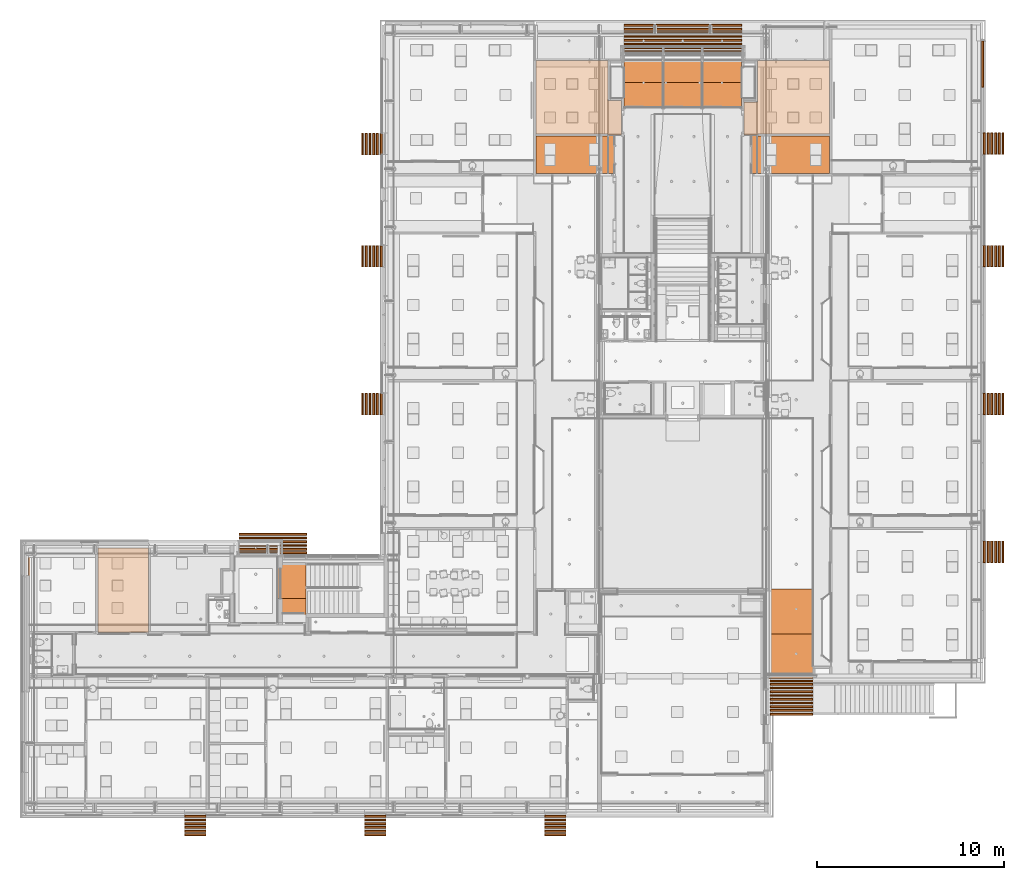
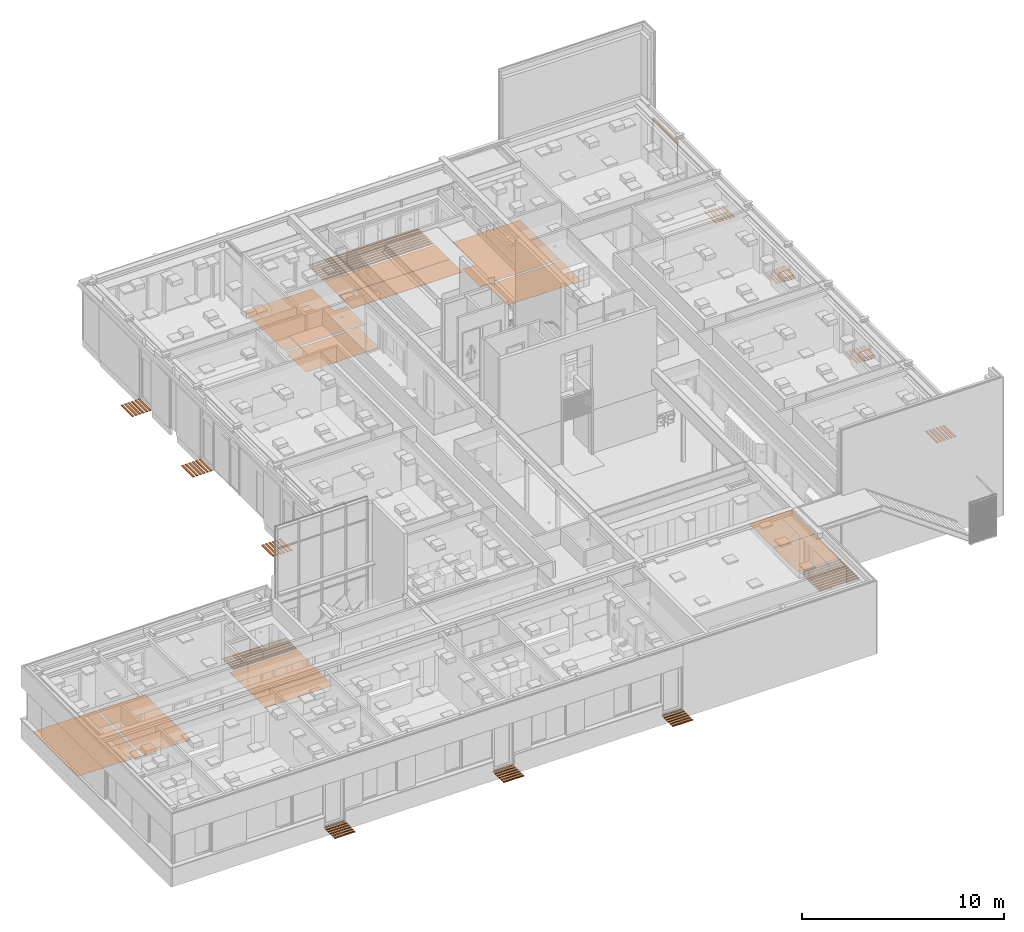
# One storey, part 337 of 347: 97 proxies.
"""IFC2X3 building model written with IfcOpenShell, lengths in millimetres."""

from ifc_helpers import new_model, entity, si_unit, converted_unit, derived_unit, money_unit, direction, frame, origin_with_axes, place, context, subcontext, project, spatial, open_shell, faceted_brep, surface_model, source, transform, mapped, material, type_object, type_shapes, element, save


model = new_model("IFC2X3")

# Units and contexts
model_context = context("Model", 3, precision=0.01, world=origin_with_axes(), true_north=direction((0.0, 1.0)))
plan_context = context("Plan", 3, precision=0.01, world=origin_with_axes(), true_north=direction((0.0, 1.0)))
body_context = subcontext(model_context, "Body", "Model", "MODEL_VIEW")
ifc_project = project(units=[si_unit("LENGTHUNIT", "METRE", prefix="MILLI"), si_unit("AREAUNIT", "SQUARE_METRE"), si_unit("VOLUMEUNIT", "CUBIC_METRE"), converted_unit("PLANEANGLEUNIT", "DEGREE", entity("IfcPlaneAngleMeasure", 0.0174532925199), si_unit("PLANEANGLEUNIT", "RADIAN"), dimensions=[0, 0, 0, 0, 0, 0, 0]), money_unit("EUR"), converted_unit("TIMEUNIT", "Year", entity("IfcTimeMeasure", 31556926.0), si_unit("TIMEUNIT", "SECOND"), dimensions=[0, 0, 1, 0, 0, 0, 0]), si_unit("MASSUNIT", "GRAM", prefix="KILO"), si_unit("THERMODYNAMICTEMPERATUREUNIT", "DEGREE_CELSIUS"), si_unit("LUMINOUSINTENSITYUNIT", "LUMEN"), si_unit("ENERGYUNIT", "JOULE", prefix="MEGA"), derived_unit("THERMALCONDUCTANCEUNIT", [(si_unit("POWERUNIT", "WATT"), 1), (si_unit("LENGTHUNIT", "METRE"), -1), (si_unit("THERMODYNAMICTEMPERATUREUNIT", "KELVIN"), -1)]), derived_unit("SPECIFICHEATCAPACITYUNIT", [(si_unit("ENERGYUNIT", "JOULE"), 1), (si_unit("MASSUNIT", "GRAM", prefix="KILO"), -1), (si_unit("THERMODYNAMICTEMPERATUREUNIT", "KELVIN"), -1)]), derived_unit("MASSDENSITYUNIT", [(si_unit("MASSUNIT", "GRAM", prefix="KILO"), 1), (si_unit("VOLUMEUNIT", "CUBIC_METRE"), -1)])], contexts=[model_context, plan_context])

# Site, building, storey
site_placement = place(None, origin_with_axes())
site = spatial("IfcSite", under=ifc_project, at=site_placement, Name="Site", CompositionType="ELEMENT")
building_placement = place(site_placement, origin_with_axes())
building = spatial("IfcBuilding", under=site, at=building_placement, Name="Naam gebouw", CompositionType="ELEMENT")
storey_placement = place(building_placement, origin_with_axes())
storey = spatial("IfcBuildingStorey", under=building, at=storey_placement, Name="begane grond", CompositionType="ELEMENT", Elevation=0.0)

# Proxies
ifc_material_1 = material(Name="48 Emco Scratch2")
building_element_proxy_type_1 = type_object("IfcBuildingElementProxyType", Name="48 Emco Scratch2 30", PredefinedType="NOTDEFINED")
for number, where, z_axis, x_axis, name in (
    (1, (19905.0, 19694.9999717, -10.0), (0.0, 0.0, 1.0), (1.0, 0.0, 0.0), "_43 schoonloop zone 1"),
    (2, (19905.0, 19494.9999717, -10.0), (0.0, 0.0, 1.0), (1.0, 0.0, 0.0), "_43 schoonloop zone 1"),
    (3, (19905.0, 19294.9999717, -10.0), (0.0, 0.0, 1.0), (1.0, 0.0, 0.0), "_43 schoonloop zone 1"),
    (4, (19905.0, 19094.9999717, -10.0), (0.0, 0.0, 1.0), (1.0, 0.0, 0.0), "_43 schoonloop zone 1"),
    (5, (19905.0, 18894.9999717, -10.0), (0.0, 0.0, 1.0), (1.0, 0.0, 0.0), "_43 schoonloop zone 1"),
    (6, (19905.0, 18694.9999717, -10.0), (0.0, 0.0, 1.0), (1.0, 0.0, 0.0), "_43 schoonloop zone 1"),
):
    element("IfcBuildingElementProxy", number, at=place(storey_placement, frame(where, z_axis=z_axis, x_axis=x_axis)), inside=storey, type_object=building_element_proxy_type_1, material=ifc_material_1, Name=name, context=body_context, shape_type="Brep", body=[
        faceted_brep([(0.0, 0.0, 0.0), (0.0, 0.0, -30.0), (0.0, 100.0, -30.0), (0.0, 100.0, 0.0), (-3619.99993473, 0.0, 0.0), (-3619.99993473, 0.0, -30.0), (-3619.99993473, 100.0, -30.0), (-3619.99993473, 100.0, 0.0)], [[[0, 1, 2, 3]], [[4, 5, 1, 0]], [[2, 1, 5, 6]], [[3, 2, 6, 7]], [[4, 0, 3, 7]], [[7, 6, 5, 4]]]),
    ])
for number, where, z_axis, x_axis, name in (
    (7, (47055.0, 10050.0, -10.0), (0.0, 0.0, 1.0), (1.0, 0.0, 0.0), "_43 schoonloop zone 1"),
    (8, (47055.0, 10450.0, -10.0), (0.0, 0.0, 1.0), (1.0, 0.0, 0.0), "_43 schoonloop zone 1"),
    (9, (47055.0, 10250.0, -10.0), (0.0, 0.0, 1.0), (1.0, 0.0, 0.0), "_43 schoonloop zone 1"),
):
    element("IfcBuildingElementProxy", number, at=place(storey_placement, frame(where, z_axis=z_axis, x_axis=x_axis)), inside=storey, type_object=building_element_proxy_type_1, material=ifc_material_1, Name=name, context=body_context, shape_type="Brep", body=[
        faceted_brep([(0.0, 0.0, 0.0), (0.0, 0.0, -30.0), (0.0, 100.0, -30.0), (0.0, 100.0, 0.0), (-2277.99924659, 0.0, 0.0), (-2277.99924659, 0.0, -30.0), (-2277.99924659, 100.0, -30.0), (-2277.99924659, 100.0, 0.0)], [[[0, 1, 2, 3]], [[4, 5, 1, 0]], [[2, 1, 5, 6]], [[3, 2, 6, 7]], [[4, 0, 3, 7]], [[7, 6, 5, 4]]]),
    ])
proxy_1_placement = place(storey_placement, frame((47055.0, 11850.0, -10.0), z_axis=(0.0, 0.0, 1.0), x_axis=(1.0, 0.0, 0.0)))
element("IfcBuildingElementProxy", 10, at=proxy_1_placement, inside=storey, type_object=building_element_proxy_type_1, material=ifc_material_1, Name="_43 schoonloop zone 1", context=body_context, shape_type="Brep", body=[
    faceted_brep([(0.0, 0.0, 0.0), (0.0, 0.0, -30.0), (0.0, 78.0000336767, -30.0), (0.0, 78.0000336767, 0.0), (-2277.99924659, 0.0, 0.0), (-2277.99924659, 0.0, -30.0), (-2277.99924659, 78.0000336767, -30.0), (-2277.99924659, 78.0000336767, 0.0)], [[[0, 1, 2, 3]], [[4, 5, 1, 0]], [[2, 1, 5, 6]], [[3, 2, 6, 7]], [[4, 0, 3, 7]], [[7, 6, 5, 4]]]),
])
for number, where, z_axis, x_axis, name in (
    (11, (47055.0, 10850.0, -10.0), (0.0, 0.0, 1.0), (1.0, 0.0, 0.0), "_43 schoonloop zone 1"),
    (12, (47055.0, 10650.0, -10.0), (0.0, 0.0, 1.0), (1.0, 0.0, 0.0), "_43 schoonloop zone 1"),
    (13, (47055.0, 11250.0, -10.0), (0.0, 0.0, 1.0), (1.0, 0.0, 0.0), "_43 schoonloop zone 1"),
    (14, (47055.0, 11050.0, -10.0), (0.0, 0.0, 1.0), (1.0, 0.0, 0.0), "_43 schoonloop zone 1"),
    (15, (47055.0, 11650.0, -10.0), (0.0, 0.0, 1.0), (1.0, 0.0, 0.0), "_43 schoonloop zone 1"),
    (16, (47055.0, 11450.0, -10.0), (0.0, 0.0, 1.0), (1.0, 0.0, 0.0), "_43 schoonloop zone 1"),
):
    element("IfcBuildingElementProxy", number, at=place(storey_placement, frame(where, z_axis=z_axis, x_axis=x_axis)), inside=storey, type_object=building_element_proxy_type_1, material=ifc_material_1, Name=name, context=body_context, shape_type="Brep", body=[
        faceted_brep([(0.0, 0.0, 0.0), (0.0, 0.0, -30.0), (0.0, 100.0, -30.0), (0.0, 100.0, 0.0), (-2277.99924659, 0.0, 0.0), (-2277.99924659, 0.0, -30.0), (-2277.99924659, 100.0, -30.0), (-2277.99924659, 100.0, 0.0)], [[[0, 1, 2, 3]], [[4, 5, 1, 0]], [[2, 1, 5, 6]], [[3, 2, 6, 7]], [[4, 0, 3, 7]], [[7, 6, 5, 4]]]),
    ])
for number, where, z_axis, x_axis, name in (
    (17, (43225.0, 46980.0, -10.0), (0.0, 0.0, 1.0), (1.0, 0.0, 0.0), "_43 schoonloop zone 1"),
    (18, (43225.0, 46780.0, -10.0), (0.0, 0.0, 1.0), (1.0, 0.0, 0.0), "_43 schoonloop zone 1"),
    (19, (43225.0, 46580.0, -10.0), (0.0, 0.0, 1.0), (1.0, 0.0, 0.0), "_43 schoonloop zone 1"),
    (20, (43225.0, 46380.0, -10.0), (0.0, 0.0, 1.0), (1.0, 0.0, 0.0), "_43 schoonloop zone 1"),
    (21, (43225.0, 46180.0, -10.0), (0.0, 0.0, 1.0), (1.0, 0.0, 0.0), "_43 schoonloop zone 1"),
    (22, (43225.0, 45980.0, -10.0), (0.0, 0.0, 1.0), (1.0, 0.0, 0.0), "_43 schoonloop zone 1"),
    (23, (43225.0, 45780.0, -10.0), (0.0, 0.0, 1.0), (1.0, 0.0, 0.0), "_43 schoonloop zone 1"),
    (24, (43225.0, 45580.0, -10.0), (0.0, 0.0, 1.0), (1.0, 0.0, 0.0), "_43 schoonloop zone 1"),
):
    element("IfcBuildingElementProxy", number, at=place(storey_placement, frame(where, z_axis=z_axis, x_axis=x_axis)), inside=storey, type_object=building_element_proxy_type_1, material=ifc_material_1, Name=name, context=body_context, shape_type="Brep", body=[
        faceted_brep([(0.0, 0.0, 0.0), (0.0, 0.0, -30.0), (0.0, 100.0, -30.0), (0.0, 100.0, 0.0), (-6300.0, 0.0, 0.0), (-6300.0, 0.0, -30.0), (-6300.0, 100.0, -30.0), (-6300.0, 100.0, 0.0)], [[[0, 1, 2, 3]], [[4, 5, 1, 0]], [[2, 1, 5, 6]], [[3, 2, 6, 7]], [[4, 0, 3, 7]], [[7, 6, 5, 4]]]),
    ])
for number, where, z_axis, x_axis, name in (
    (25, (56196.9999969, 40110.0000196, -10.0), (0.0, 0.0, 1.0), (1.0, 0.0, 0.0), "_43 schoonloop zone 1"),
    (26, (56396.9999969, 40110.0000196, -10.0), (0.0, 0.0, 1.0), (1.0, 0.0, 0.0), "_43 schoonloop zone 1"),
    (27, (56596.9999969, 40110.0000196, -10.0), (0.0, 0.0, 1.0), (1.0, 0.0, 0.0), "_43 schoonloop zone 1"),
    (28, (56796.9999969, 40110.0000196, -10.0), (0.0, 0.0, 1.0), (1.0, 0.0, 0.0), "_43 schoonloop zone 1"),
    (29, (56996.9999969, 40110.0000196, -10.0), (0.0, 0.0, 1.0), (1.0, 0.0, 0.0), "_43 schoonloop zone 1"),
    (30, (57196.9999969, 40110.0000196, -10.0), (0.0, 0.0, 1.0), (1.0, 0.0, 0.0), "_43 schoonloop zone 1"),
    (31, (56196.9999969, 34074.4999991, -10.0), (0.0, 0.0, 1.0), (1.0, 0.0, 0.0), "_43 schoonloop zone 1"),
    (32, (56396.9999969, 34074.4999991, -10.0), (0.0, 0.0, 1.0), (1.0, 0.0, 0.0), "_43 schoonloop zone 1"),
    (33, (56596.9999969, 34074.4999991, -10.0), (0.0, 0.0, 1.0), (1.0, 0.0, 0.0), "_43 schoonloop zone 1"),
    (34, (56796.9999969, 34074.4999991, -10.0), (0.0, 0.0, 1.0), (1.0, 0.0, 0.0), "_43 schoonloop zone 1"),
    (35, (56996.9999969, 34074.4999991, -10.0), (0.0, 0.0, 1.0), (1.0, 0.0, 0.0), "_43 schoonloop zone 1"),
    (36, (57196.9999969, 34074.4999991, -10.0), (0.0, 0.0, 1.0), (1.0, 0.0, 0.0), "_43 schoonloop zone 1"),
    (37, (56196.9999969, 26149.5, -10.0), (0.0, 0.0, 1.0), (1.0, 0.0, 0.0), "_43 schoonloop zone 1"),
    (38, (56396.9999969, 26149.5, -10.0), (0.0, 0.0, 1.0), (1.0, 0.0, 0.0), "_43 schoonloop zone 1"),
    (39, (56596.9999969, 26149.5, -10.0), (0.0, 0.0, 1.0), (1.0, 0.0, 0.0), "_43 schoonloop zone 1"),
    (40, (56796.9999969, 26149.5, -10.0), (0.0, 0.0, 1.0), (1.0, 0.0, 0.0), "_43 schoonloop zone 1"),
    (41, (56996.9999969, 26149.5, -10.0), (0.0, 0.0, 1.0), (1.0, 0.0, 0.0), "_43 schoonloop zone 1"),
    (42, (57196.9999969, 26149.5, -10.0), (0.0, 0.0, 1.0), (1.0, 0.0, 0.0), "_43 schoonloop zone 1"),
    (43, (56196.9999969, 18224.5, -10.0), (0.0, 0.0, 1.0), (1.0, 0.0, 0.0), "_43 schoonloop zone 1"),
    (44, (56396.9999969, 18224.5, -10.0), (0.0, 0.0, 1.0), (1.0, 0.0, 0.0), "_43 schoonloop zone 1"),
    (45, (56596.9999969, 18224.5, -10.0), (0.0, 0.0, 1.0), (1.0, 0.0, 0.0), "_43 schoonloop zone 1"),
    (46, (56796.9999969, 18224.5, -10.0), (0.0, 0.0, 1.0), (1.0, 0.0, 0.0), "_43 schoonloop zone 1"),
    (47, (56996.9999969, 18224.5, -10.0), (0.0, 0.0, 1.0), (1.0, 0.0, 0.0), "_43 schoonloop zone 1"),
    (48, (57196.9999969, 18224.5, -10.0), (0.0, 0.0, 1.0), (1.0, 0.0, 0.0), "_43 schoonloop zone 1"),
):
    element("IfcBuildingElementProxy", number, at=place(storey_placement, frame(where, z_axis=z_axis, x_axis=x_axis)), inside=storey, type_object=building_element_proxy_type_1, material=ifc_material_1, Name=name, context=body_context, shape_type="Brep", body=[
        faceted_brep([(0.0, 0.0, 0.0), (0.0, 0.0, -30.0), (100.0, 0.0, -30.0), (100.0, 0.0, 0.0), (0.0, 1150.0, 0.0), (0.0, 1150.0, -30.0), (100.0, 1150.0, -30.0), (100.0, 1150.0, 0.0)], [[[0, 1, 2, 3]], [[4, 5, 1, 0]], [[2, 1, 5, 6]], [[3, 2, 6, 7]], [[4, 0, 3, 7]], [[7, 6, 5, 4]]]),
    ])
for number, where, z_axis, x_axis, name in (
    (49, (32662.0, 4678.00004885, -10.0), (0.0, 0.0, 1.0), (1.0, 0.0, 0.0), "_43 schoonloop zone 1"),
    (50, (32662.0, 4478.00004885, -10.0), (0.0, 0.0, 1.0), (1.0, 0.0, 0.0), "_43 schoonloop zone 1"),
    (51, (32662.0, 4278.00004885, -10.0), (0.0, 0.0, 1.0), (1.0, 0.0, 0.0), "_43 schoonloop zone 1"),
    (52, (32662.0, 4078.00004885, -10.0), (0.0, 0.0, 1.0), (1.0, 0.0, 0.0), "_43 schoonloop zone 1"),
    (53, (32662.0, 3878.00004885, -10.0), (0.0, 0.0, 1.0), (1.0, 0.0, 0.0), "_43 schoonloop zone 1"),
    (54, (32662.0, 3678.00004885, -10.0), (0.0, 0.0, 1.0), (1.0, 0.0, 0.0), "_43 schoonloop zone 1"),
    (55, (23012.0, 4678.00004885, -10.0), (0.0, 0.0, 1.0), (1.0, 0.0, 0.0), "_43 schoonloop zone 1"),
    (56, (23012.0, 4478.00004885, -10.0), (0.0, 0.0, 1.0), (1.0, 0.0, 0.0), "_43 schoonloop zone 1"),
    (57, (23012.0, 4278.00004885, -10.0), (0.0, 0.0, 1.0), (1.0, 0.0, 0.0), "_43 schoonloop zone 1"),
    (58, (23012.0, 4078.00004885, -10.0), (0.0, 0.0, 1.0), (1.0, 0.0, 0.0), "_43 schoonloop zone 1"),
    (59, (23012.0, 3878.00004885, -10.0), (0.0, 0.0, 1.0), (1.0, 0.0, 0.0), "_43 schoonloop zone 1"),
    (60, (23012.0, 3678.00004885, -10.0), (0.0, 0.0, 1.0), (1.0, 0.0, 0.0), "_43 schoonloop zone 1"),
    (61, (13362.0, 4678.00004885, -10.0), (0.0, 0.0, 1.0), (1.0, 0.0, 0.0), "_43 schoonloop zone 1"),
    (62, (13362.0, 4478.00004885, -10.0), (0.0, 0.0, 1.0), (1.0, 0.0, 0.0), "_43 schoonloop zone 1"),
    (63, (13362.0, 4278.00004885, -10.0), (0.0, 0.0, 1.0), (1.0, 0.0, 0.0), "_43 schoonloop zone 1"),
    (64, (13362.0, 4078.00004885, -10.0), (0.0, 0.0, 1.0), (1.0, 0.0, 0.0), "_43 schoonloop zone 1"),
    (65, (13362.0, 3878.00004885, -10.0), (0.0, 0.0, 1.0), (1.0, 0.0, 0.0), "_43 schoonloop zone 1"),
    (66, (13362.0, 3678.00004885, -10.0), (0.0, 0.0, 1.0), (1.0, 0.0, 0.0), "_43 schoonloop zone 1"),
):
    element("IfcBuildingElementProxy", number, at=place(storey_placement, frame(where, z_axis=z_axis, x_axis=x_axis)), inside=storey, type_object=building_element_proxy_type_1, material=ifc_material_1, Name=name, context=body_context, shape_type="Brep", body=[
        faceted_brep([(0.0, 0.0, 0.0), (0.0, 0.0, -30.0), (0.0, -100.0, -30.0), (0.0, -100.0, 0.0), (1150.0, 0.0, 0.0), (1150.0, 0.0, -30.0), (1150.0, -100.0, -30.0), (1150.0, -100.0, 0.0)], [[[0, 1, 2, 3]], [[4, 5, 1, 0]], [[2, 1, 5, 6]], [[3, 2, 6, 7]], [[4, 0, 3, 7]], [[7, 6, 5, 4]]]),
    ])
for number, where, z_axis, x_axis, name in (
    (67, (23953.0000283, 27299.5, -10.0), (0.0, 0.0, 1.0), (1.0, 0.0, 0.0), "_43 schoonloop zone 1"),
    (68, (23753.0000283, 27299.5, -10.0), (0.0, 0.0, 1.0), (1.0, 0.0, 0.0), "_43 schoonloop zone 1"),
    (69, (23553.0000283, 27299.5, -10.0), (0.0, 0.0, 1.0), (1.0, 0.0, 0.0), "_43 schoonloop zone 1"),
    (70, (23353.0000283, 27299.5, -10.0), (0.0, 0.0, 1.0), (1.0, 0.0, 0.0), "_43 schoonloop zone 1"),
    (71, (23153.0000283, 27299.5, -10.0), (0.0, 0.0, 1.0), (1.0, 0.0, 0.0), "_43 schoonloop zone 1"),
    (72, (22953.0000283, 27299.5, -10.0), (0.0, 0.0, 1.0), (1.0, 0.0, 0.0), "_43 schoonloop zone 1"),
    (73, (23953.0000283, 35224.5, -10.0), (0.0, 0.0, 1.0), (1.0, 0.0, 0.0), "_43 schoonloop zone 1"),
    (74, (23753.0000283, 35224.5, -10.0), (0.0, 0.0, 1.0), (1.0, 0.0, 0.0), "_43 schoonloop zone 1"),
    (75, (23553.0000283, 35224.5, -10.0), (0.0, 0.0, 1.0), (1.0, 0.0, 0.0), "_43 schoonloop zone 1"),
    (76, (23353.0000283, 35224.5, -10.0), (0.0, 0.0, 1.0), (1.0, 0.0, 0.0), "_43 schoonloop zone 1"),
    (77, (23153.0000283, 35224.5, -10.0), (0.0, 0.0, 1.0), (1.0, 0.0, 0.0), "_43 schoonloop zone 1"),
    (78, (22953.0000283, 35224.5, -10.0), (0.0, 0.0, 1.0), (1.0, 0.0, 0.0), "_43 schoonloop zone 1"),
    (79, (23953.0000283, 41234.0000187, -10.0), (0.0, 0.0, 1.0), (1.0, 0.0, 0.0), "_43 schoonloop zone 1"),
    (80, (23753.0000283, 41234.0000187, -10.0), (0.0, 0.0, 1.0), (1.0, 0.0, 0.0), "_43 schoonloop zone 1"),
    (81, (23553.0000283, 41234.0000187, -10.0), (0.0, 0.0, 1.0), (1.0, 0.0, 0.0), "_43 schoonloop zone 1"),
    (82, (23353.0000283, 41234.0000187, -10.0), (0.0, 0.0, 1.0), (1.0, 0.0, 0.0), "_43 schoonloop zone 1"),
    (83, (23153.0000283, 41234.0000187, -10.0), (0.0, 0.0, 1.0), (1.0, 0.0, 0.0), "_43 schoonloop zone 1"),
    (84, (22953.0000283, 41234.0000187, -10.0), (0.0, 0.0, 1.0), (1.0, 0.0, 0.0), "_43 schoonloop zone 1"),
):
    element("IfcBuildingElementProxy", number, at=place(storey_placement, frame(where, z_axis=z_axis, x_axis=x_axis)), inside=storey, type_object=building_element_proxy_type_1, material=ifc_material_1, Name=name, context=body_context, shape_type="Brep", body=[
        faceted_brep([(0.0, 0.0, 0.0), (0.0, 0.0, -30.0), (-100.0, 0.0, -30.0), (-100.0, 0.0, 0.0), (0.0, -1150.0, 0.0), (0.0, -1150.0, -30.0), (-100.0, -1150.0, -30.0), (-100.0, -1150.0, 0.0)], [[[0, 1, 2, 3]], [[4, 5, 1, 0]], [[2, 1, 5, 6]], [[3, 2, 6, 7]], [[4, 0, 3, 7]], [[7, 6, 5, 4]]]),
    ])
building_element_proxy_type_2 = type_object("IfcBuildingElementProxyType", Name="48 Emco Scratch2 15", PredefinedType="NOTDEFINED")
proxy_2_placement = place(storey_placement, frame((44655.0, 12000.0000337, -10.0), z_axis=(0.0, 0.0, 1.0), x_axis=(1.0, 0.0, 0.0)))
element("IfcBuildingElementProxy", 85, at=proxy_2_placement, inside=storey, type_object=building_element_proxy_type_2, material=ifc_material_1, Name="_43 schoonloop zone 2", context=body_context, shape_type="Brep", body=[
    faceted_brep([(0.0, 0.0, 15.0), (0.0, 0.0, 0.0), (2400.0, 0.0, 0.0), (2400.0, 0.0, 15.0), (0.0, 2410.00000659, 15.0), (0.0, 2410.00000659, 0.0), (2400.0, 2410.00000659, 0.0), (2400.0, 2410.00000659, 15.0)], [[[0, 1, 2, 3]], [[4, 5, 1, 0]], [[2, 1, 5, 6]], [[3, 2, 6, 7]], [[4, 0, 3, 7]], [[7, 6, 5, 4]]]),
])
proxy_3_placement = place(storey_placement, frame((16005.0000216, 16300.0, -10.0), z_axis=(0.0, 0.0, 1.0), x_axis=(1.0, 0.0, 0.0)))
element("IfcBuildingElementProxy", 86, at=proxy_3_placement, inside=storey, type_object=building_element_proxy_type_2, material=ifc_material_1, Name="_43 schoonloop zone 2", context=body_context, shape_type="Brep", body=[
    faceted_brep([(0.0, 0.0, 15.0), (0.0, 0.0, 0.0), (3859.99997835, 0.0, 0.0), (3859.99997835, 0.0, 15.0), (0.0, 2233.00000094, 15.0), (0.0, 2233.00000094, 0.0), (3859.99997835, 2233.00000094, 0.0), (3859.99997835, 2233.00000094, 15.0)], [[[0, 1, 2, 3]], [[4, 5, 1, 0]], [[2, 1, 5, 6]], [[3, 2, 6, 7]], [[4, 0, 3, 7]], [[7, 6, 5, 4]]]),
])
proxy_4_placement = place(storey_placement, frame((36925.0, 43962.5, -10.0), z_axis=(0.0, 0.0, 1.0), x_axis=(1.0, 0.0, 0.0)))
element("IfcBuildingElementProxy", 87, at=proxy_4_placement, inside=storey, type_object=building_element_proxy_type_2, material=ifc_material_1, Name="_43 schoonloop zone 2", context=body_context, shape_type="Brep", body=[
    faceted_brep([(0.0, 0.0, 15.0), (0.0, 0.0, 0.0), (6300.0, 0.0, 0.0), (6300.0, 0.0, 15.0), (0.0, 1445.5, 15.0), (0.0, 1445.5, 0.0), (6300.0, 1445.5, 0.0), (6300.0, 1445.5, 15.0)], [[[0, 1, 2, 3]], [[4, 5, 1, 0]], [[2, 1, 5, 6]], [[3, 2, 6, 7]], [[4, 0, 3, 7]], [[7, 6, 5, 4]]]),
])
ifc_material_2 = material(Name="48 Emco Maximus")
building_element_proxy_type_3 = type_object("IfcBuildingElementProxyType", Name="48 Emco Maximus 15", PredefinedType="NOTDEFINED")
proxy_5_placement = place(storey_placement, frame((44655.0012132, 14410.0000403, -10.0), z_axis=(0.0, 0.0, 1.0), x_axis=(1.0, 0.0, 0.0)))
element("IfcBuildingElementProxy", 88, at=proxy_5_placement, inside=storey, type_object=building_element_proxy_type_3, material=ifc_material_2, Name="_schoonloop zone 3", context=body_context, shape_type="Brep", body=[
    faceted_brep([(0.0, 0.0, 15.0), (0.0, 0.0, 0.0), (2399.99878679, 0.0, 0.0), (2399.99878679, 0.0, 15.0), (0.0, 2399.99995973, 15.0), (0.0, 2399.99995973, 0.0), (2399.99878679, 2399.99995973, 0.0), (2399.99878679, 2399.99995973, 15.0)], [[[0, 1, 2, 3]], [[4, 5, 1, 0]], [[2, 1, 5, 6]], [[3, 2, 6, 7]], [[4, 0, 3, 7]], [[7, 6, 5, 4]]]),
])
proxy_6_placement = place(storey_placement, frame((16005.0000216, 15015.0, -10.0), z_axis=(0.0, 0.0, 1.0), x_axis=(1.0, 0.0, 0.0)))
element("IfcBuildingElementProxy", 89, at=proxy_6_placement, inside=storey, type_object=building_element_proxy_type_3, material=ifc_material_2, Name="_schoonloop zone 3", context=body_context, shape_type="Brep", body=[
    faceted_brep([(0.0, 0.0, 15.0), (0.0, 0.0, 0.0), (3859.99997835, 0.0, 0.0), (3859.99997835, 0.0, 15.0), (0.0, 1285.0, 15.0), (0.0, 1285.0, 0.0), (3859.99997835, 1285.0, 0.0), (3859.99997835, 1285.0, 15.0)], [[[0, 1, 2, 3]], [[4, 5, 1, 0]], [[2, 1, 5, 6]], [[3, 2, 6, 7]], [[4, 0, 3, 7]], [[7, 6, 5, 4]]]),
])
proxy_7_placement = place(storey_placement, frame((36925.0, 42687.5, -10.0), z_axis=(0.0, 0.0, 1.0), x_axis=(1.0, 0.0, 0.0)))
element("IfcBuildingElementProxy", 90, at=proxy_7_placement, inside=storey, type_object=building_element_proxy_type_3, material=ifc_material_2, Name="_43 schoonloop zone 3", context=body_context, shape_type="Brep", body=[
    faceted_brep([(0.0, 0.0, 15.0), (0.0, 0.0, 0.0), (6300.0, 0.0, 0.0), (6300.0, 0.0, 15.0), (0.0, 1275.0, 15.0), (0.0, 1275.0, 0.0), (6300.0, 1275.0, 0.0), (6300.0, 1275.0, 15.0)], [[[0, 1, 2, 3]], [[4, 5, 1, 0]], [[2, 1, 5, 6]], [[3, 2, 6, 7]], [[4, 0, 3, 7]], [[7, 6, 5, 4]]]),
])
ifc_material_3 = material(Name="48 Desso airmaster 1958")
building_element_proxy_type_4 = type_object("IfcBuildingElementProxyType", Name="48 Desso airmaster 1958 2", PredefinedType="NOTDEFINED")
proxy_8_placement = place(storey_placement, frame((8725.0, 14475.0, 0.0), z_axis=(0.0, 0.0, 1.0), x_axis=(1.0, 0.0, 0.0)))
element("IfcBuildingElementProxy", 91, at=proxy_8_placement, inside=storey, type_object=building_element_proxy_type_4, material=ifc_material_3, Name="_43 tapijt", context=body_context, shape_type="Brep", body=[
    faceted_brep([(0.0, 0.0, 2.0), (0.0, 0.0, 0.0), (2700.0, 0.0, 0.0), (2700.0, 0.0, 2.0), (0.0, 4525.00002799, 2.0), (0.0, 4525.00002799, 0.0), (2700.0, 4525.00002799, 0.0), (2700.0, 4525.00002799, 2.0)], [[[0, 1, 2, 3]], [[4, 5, 1, 0]], [[2, 1, 5, 6]], [[3, 2, 6, 7]], [[4, 0, 3, 7]], [[7, 6, 5, 4]]]),
])
proxy_9_placement = place(storey_placement, frame((8600.00000946, 19000.0, 0.0), z_axis=(0.0, 0.0, 1.0), x_axis=(1.0, 0.0, 0.0)))
element("IfcBuildingElementProxy", 92, at=proxy_9_placement, inside=storey, type_object=building_element_proxy_type_4, material=ifc_material_3, Name="_43 tapijt", context=body_context, shape_type="Brep", body=[
    faceted_brep([(0.0, 0.0, 2.0), (0.0, 0.0, 0.0), (-3599.99998611, 0.0, 0.0), (-3599.99998611, 0.0, 2.0), (0.0, -4522.00000523, 2.0), (0.0, -4522.00000523, 0.0), (-1070.99999721, -4522.00000523, 0.0), (-1070.99999721, -4475.00000135, 0.0), (-3599.99998611, -4475.00000135, 0.0), (-3599.99998611, -4475.00000135, 2.0), (-1070.99999721, -4475.00000135, 2.0), (-1070.99999721, -4522.00000523, 2.0)], [[[0, 1, 2, 3]], [[4, 5, 1, 0]], [[2, 1, 5, 6, 7, 8]], [[3, 2, 8, 9]], [[4, 0, 3, 9, 10, 11]], [[11, 6, 5, 4]], [[10, 7, 6, 11]], [[9, 8, 7, 10]]]),
])
proxy_10_placement = place(storey_placement, frame((32200.0, 41212.5, 0.0), z_axis=(0.0, 0.0, 1.0), x_axis=(1.0, 0.0, 0.0)))
element("IfcBuildingElementProxy", 93, at=proxy_10_placement, inside=storey, type_object=building_element_proxy_type_4, material=ifc_material_3, Name="_43 tapijt", context=body_context, shape_type="Brep", body=[
    faceted_brep([(0.0, 0.0, 2.0), (0.0, 0.0, 0.0), (3875.0, 0.0, 0.0), (3875.0, 0.0, 2.0), (0.0, 3940.5, 2.0), (0.0, 3940.5, 0.0), (3875.0, 3940.5, 0.0), (3875.0, 1778.0, 0.0), (4600.0, 1778.0, 0.0), (4600.0, -50.0, 0.0), (3875.0, -50.0, 0.0), (3875.0, -50.0, 2.0), (4600.0, -50.0, 2.0), (4600.0, 1778.0, 2.0), (3875.0, 1778.0, 2.0), (3875.0, 3940.5, 2.0)], [[[0, 1, 2, 3]], [[4, 5, 1, 0]], [[2, 1, 5, 6, 7, 8, 9, 10]], [[3, 2, 10, 11]], [[4, 0, 3, 11, 12, 13, 14, 15]], [[15, 6, 5, 4]], [[14, 7, 6, 15]], [[13, 8, 7, 14]], [[12, 9, 8, 13]], [[11, 10, 9, 12]]]),
])
proxy_11_placement = place(storey_placement, frame((43350.000046, 41156.5, 0.0), z_axis=(0.0, 0.0, 1.0), x_axis=(1.0, 0.0, 0.0)))
element("IfcBuildingElementProxy", 94, at=proxy_11_placement, inside=storey, type_object=building_element_proxy_type_4, material=ifc_material_3, Name="_43 tapijt", context=body_context, shape_type="Brep", body=[
    faceted_brep([(0.0, 0.0, 2.0), (0.0, 0.0, 0.0), (725.000000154, 0.0, 0.0), (725.000000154, 0.0, 2.0), (-4.76458481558e-05, 1753.99998031, 2.0), (-4.76458481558e-05, 1753.99998031, 0.0), (724.99995403, 1754.0, 0.0), (725.000000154, 3996.5, 0.0), (4599.99995403, 3996.5, 0.0), (4599.99995403, 56.0, 0.0), (725.000000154, 56.0, 0.0), (725.000000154, 56.0, 2.0), (4599.99995403, 56.0, 2.0), (4599.99995403, 3996.5, 2.0), (725.000000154, 3996.5, 2.0), (724.99995403, 1754.0, 2.0)], [[[0, 1, 2, 3]], [[4, 5, 1, 0]], [[2, 1, 5, 6, 7, 8, 9, 10]], [[3, 2, 10, 11]], [[4, 0, 3, 11, 12, 13, 14, 15]], [[15, 6, 5, 4]], [[14, 7, 6, 15]], [[13, 8, 7, 14]], [[12, 9, 8, 13]], [[11, 10, 9, 12]]]),
])
ifc_material_4 = material(Name="48 Desso airmaster 9504")
building_element_proxy_type_5 = type_object("IfcBuildingElementProxyType", Name="48 Desso airmaster 9504 2", PredefinedType="NOTDEFINED")
proxy_12_placement = place(storey_placement, frame((32200.0, 39087.5, 0.0), z_axis=(0.0, 0.0, 1.0), x_axis=(1.0, 0.0, 0.0)))
element("IfcBuildingElementProxy", 95, at=proxy_12_placement, inside=storey, type_object=building_element_proxy_type_5, material=ifc_material_4, Name="_43 tapijt", context=body_context, shape_type="Brep", body=[
    faceted_brep([(0.0, 0.0, 2.0), (0.0, 0.0, 0.0), (4199.5, 0.0, 0.0), (4199.5, 0.0, 2.0), (0.0, 2000.0, 2.0), (0.0, 2000.0, 0.0), (3875.0, 2000.0, 0.0), (3875.0, 2050.0, 0.0), (4199.5, 2050.0, 0.0), (4199.5, 2050.0, 2.0), (3875.0, 2050.0, 2.0), (3875.0, 2000.0, 2.0)], [[[0, 1, 2, 3]], [[4, 5, 1, 0]], [[2, 1, 5, 6, 7, 8]], [[3, 2, 8, 9]], [[4, 0, 3, 9, 10, 11]], [[11, 6, 5, 4]], [[10, 7, 6, 11]], [[9, 8, 7, 10]]]),
])
proxy_13_placement = place(storey_placement, frame((43753.0, 39087.5, 0.0), z_axis=(0.0, 0.0, 1.0), x_axis=(1.0, 0.0, 0.0)))
element("IfcBuildingElementProxy", 96, at=proxy_13_placement, inside=storey, type_object=building_element_proxy_type_5, material=ifc_material_4, Name="_43 tapijt", context=body_context, shape_type="Brep", body=[
    faceted_brep([(0.0, 0.0, 2.0), (0.0, 0.0, 0.0), (4197.0, 0.0, 0.0), (4197.0, 0.0, 2.0), (0.0, 2056.0, 2.0), (0.0, 2056.0, 0.0), (322.000046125, 2056.0, 0.0), (322.000046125, 2000.0, 0.0), (4197.0, 2000.0, 0.0), (4197.0, 2000.0, 2.0), (322.000046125, 2000.0, 2.0), (322.000046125, 2056.0, 2.0)], [[[0, 1, 2, 3]], [[4, 5, 1, 0]], [[2, 1, 5, 6, 7, 8]], [[3, 2, 8, 9]], [[4, 0, 3, 9, 10, 11]], [[11, 6, 5, 4]], [[10, 7, 6, 11]], [[9, 8, 7, 10]]]),
])
building_element_proxy_type_6 = type_object("IfcBuildingElementProxyType", Name="Screen 25 KM", PredefinedType="NOTDEFINED")
shared_shape = source(origin_with_axes(), body_context, "Body", "SurfaceModel", [
    faceted_brep([(0.0, 0.0, 0.0), (0.0, 0.0, 1885.0), (0.0, -28.0, 1885.0), (0.0, -28.0, 0.0), (-38.0, 0.0, 0.0), (-38.0, 0.0, 1885.0), (-38.0, -4.0, 1885.0), (-35.0, -4.0, 1885.0), (-35.0, -3.0, 1885.0), (-3.0, -3.0, 1885.0), (-3.0, -25.0, 1885.0), (-35.0, -25.0, 1885.0), (-35.0, -24.0, 1885.0), (-38.0, -24.0, 1885.0), (-38.0, -28.0, 1885.0), (-38.0, -28.0, 0.0), (-38.0, -24.0, 0.0), (-35.0, -24.0, 0.0), (-35.0, -25.0, 0.0), (-3.0, -25.0, 0.0), (-3.0, -3.0, 0.0), (-35.0, -3.0, 0.0), (-35.0, -4.0, 0.0), (-38.0, -4.0, 0.0)], [[[0, 1, 2, 3]], [[4, 5, 1, 0]], [[1, 5, 6, 7, 8, 9, 10, 11, 12, 13, 14, 2]], [[3, 2, 14, 15]], [[0, 3, 15, 16, 17, 18, 19, 20, 21, 22, 23, 4]], [[23, 6, 5, 4]], [[22, 7, 6, 23]], [[21, 8, 7, 22]], [[20, 9, 8, 21]], [[19, 10, 9, 20]], [[18, 11, 10, 19]], [[17, 12, 11, 18]], [[16, 13, 12, 17]], [[15, 14, 13, 16]]]),
    faceted_brep([(-2475.00000346, 0.0, 0.0), (-2475.00000346, -28.0, 0.0), (-2475.00000346, -28.0, 1885.0), (-2475.00000346, 0.0, 1885.0), (-2437.00000346, 0.0, 0.0), (-2437.00000346, -4.0, 0.0), (-2440.00000346, -4.0, 0.0), (-2440.00000346, -3.0, 0.0), (-2472.00000346, -3.0, 0.0), (-2472.00000346, -25.0, 0.0), (-2440.00000346, -25.0, 0.0), (-2440.00000346, -24.0, 0.0), (-2437.00000346, -24.0, 0.0), (-2437.00000346, -28.0, 0.0), (-2437.00000346, -28.0, 1885.0), (-2437.00000346, -24.0, 1885.0), (-2440.00000346, -24.0, 1885.0), (-2440.00000346, -25.0, 1885.0), (-2472.00000346, -25.0, 1885.0), (-2472.00000346, -3.0, 1885.0), (-2440.00000346, -3.0, 1885.0), (-2440.00000346, -4.0, 1885.0), (-2437.00000346, -4.0, 1885.0), (-2437.00000346, 0.0, 1885.0)], [[[0, 1, 2, 3]], [[0, 4, 5, 6, 7, 8, 9, 10, 11, 12, 13, 1]], [[1, 13, 14, 2]], [[3, 2, 14, 15, 16, 17, 18, 19, 20, 21, 22, 23]], [[4, 0, 3, 23]], [[5, 4, 23, 22]], [[6, 5, 22, 21]], [[7, 6, 21, 20]], [[8, 7, 20, 19]], [[9, 8, 19, 18]], [[10, 9, 18, 17]], [[11, 10, 17, 16]], [[12, 11, 16, 15]], [[13, 12, 15, 14]]]),
    surface_model("IfcShellBasedSurfaceModel", [(0.0, 0.0, 1980.0), (0.0, -95.0, 1980.0), (0.0, -95.0, 1885.0), (0.0, 0.0, 1885.0)], [open_shell([[[0, 1, 2, 3]]])]),
    surface_model("IfcShellBasedSurfaceModel", [(-0.01, 0.0, 1980.0), (-2474.99000346, 0.0, 1980.0), (-2474.99000346, -95.0, 1980.0), (-0.00999999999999, -95.0, 1980.0), (-0.01, 0.0, 1888.0), (-2474.99000346, 0.0, 1888.0), (-2474.99000346, -6.0, 1888.0), (-2474.99000346, -6.0, 1891.0), (-2474.99000346, -3.0, 1891.0), (-2474.99000346, -3.0, 1977.0), (-2474.99000346, -92.0, 1977.0), (-2474.99000346, -92.0, 1888.0), (-2474.99000346, -28.0, 1888.0), (-2474.99000346, -28.0, 1882.0), (-2474.99000346, -31.0, 1882.0), (-2474.99000346, -31.0, 1885.0), (-2474.99000346, -95.0, 1885.0), (-0.01, -95.0, 1885.0), (-0.01, -31.0, 1885.0), (-0.01, -31.0, 1882.0), (-0.01, -28.0, 1882.0), (-0.01, -28.0, 1888.0), (-0.01, -92.0, 1888.0), (-0.00999999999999, -92.0, 1977.0), (-0.01, -3.0, 1977.0), (-0.01, -3.0, 1891.0), (-0.01, -6.0, 1891.0), (-0.01, -6.0, 1888.0)], [open_shell([[[0, 1, 2, 3]], [[4, 5, 1, 0]], [[1, 5, 6, 7, 8, 9, 10, 11, 12, 13, 14, 15, 16, 2]], [[3, 2, 16, 17]], [[0, 3, 17, 18, 19, 20, 21, 22, 23, 24, 25, 26, 27, 4]], [[19, 14, 13, 20]], [[18, 15, 14, 19]], [[17, 16, 15, 18]]])]),
    surface_model("IfcShellBasedSurfaceModel", [(-2474.99000346, 0.0, 1980.0), (-2474.99000346, -95.0, 1980.0), (-2474.99000346, -95.0, 1885.0), (-2474.99000346, 0.0, 1885.0)], [open_shell([[[0, 1, 2, 3]]])]),
])
type_shapes(building_element_proxy_type_6, [shared_shape])
proxy_14_placement = place(storey_placement, frame((56108.0000442, 46197.0000225, 720.0), z_axis=(0.0, 0.0, 1.0), x_axis=(0.0, 1.0, 0.0)))
element("IfcBuildingElementProxy", 97, at=proxy_14_placement, inside=storey, type_object=building_element_proxy_type_6, Name="_78 garderobe", context=body_context, shape_type="MappedRepresentation", body=[
    mapped(shared_shape, transform((0.0, 0.0, 0.0))),
])

save(model, "model.ifc")
